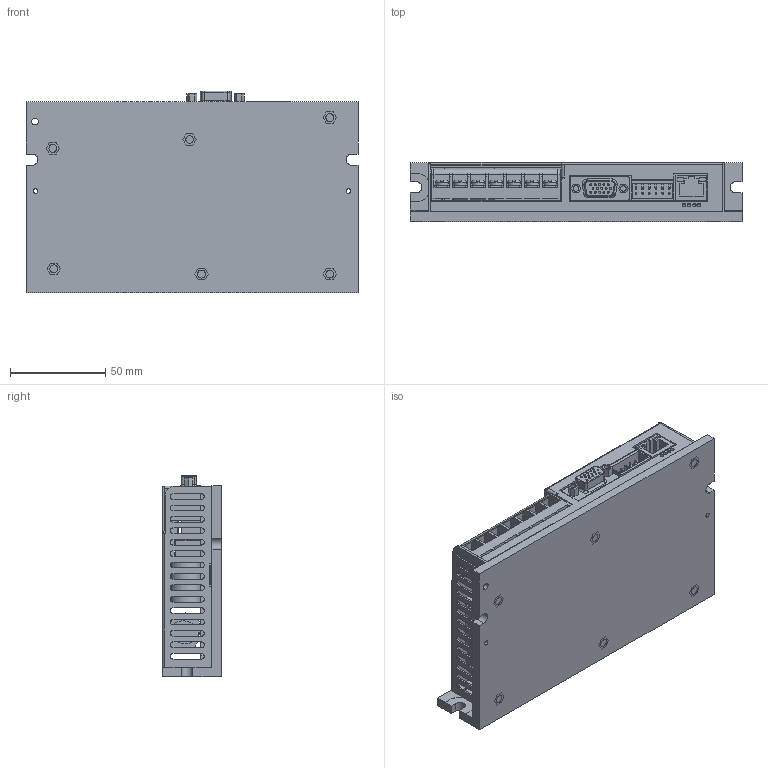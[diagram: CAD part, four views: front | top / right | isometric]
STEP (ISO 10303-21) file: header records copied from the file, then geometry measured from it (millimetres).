
FILE_DESCRIPTION((''),'2;1');
FILE_NAME('FD134S_ASM','2022-11-09T10:39:27',('RD0060'),(''),'CREO PARAMETRIC BY PTC INC, 2016510','CREO PARAMETRIC BY PTC INC, 2016510','');
FILE_SCHEMA(('CONFIG_CONTROL_DESIGN'));
Length unit declared in the file: millimetre
Products named in the file (19): PCB; DINKLE-0156-2512L; DINKLE-0156-2512L_ASM; WEBKOU_15; TTL_ASM; BOMA_4; DT49C91W-1; DT49C91W2; SCREW-M3-4-7; DT49C91W_ASM; 15ZHEN-DAOLISHI_2; CAP; PCB-ASM_ASM; THERMAL; HEATSINK; FD134HS; HS_ASM; M300; FD134S_ASM
Assembly tree (31 placements, depth 4):
  FD134S_ASM
    PCB-ASM_ASM
      PCB
      DINKLE-0156-2512L_ASM
        DINKLE-0156-2512L
      TTL_ASM  x3
        WEBKOU_15
      BOMA_4
      DT49C91W_ASM
        DT49C91W-1
        DT49C91W2
        SCREW-M3-4-7  x7
      15ZHEN-DAOLISHI_2
      CAP
    THERMAL
    HEATSINK
    HS_ASM
      FD134HS
    M300  x6
Bounding box: 174.65 x 31 x 105.93 mm (x, y, z)
Volume: 234706.6 mm3; surface area: 164764 mm2
Topology: 40 solids, 40 shells, 1246 faces, 3104 edges, 2029 vertices
Faces by surface type: plane 799, cylinder 413, torus 22, cone 12
Entity records: 26588 total; most frequent: DIRECTION 4636, CARTESIAN_POINT 4568, ORIENTED_EDGE 4332, EDGE_CURVE 2166, VECTOR 1558, LINE 1558, AXIS2_PLACEMENT_3D 1539, VERTEX_POINT 1411
